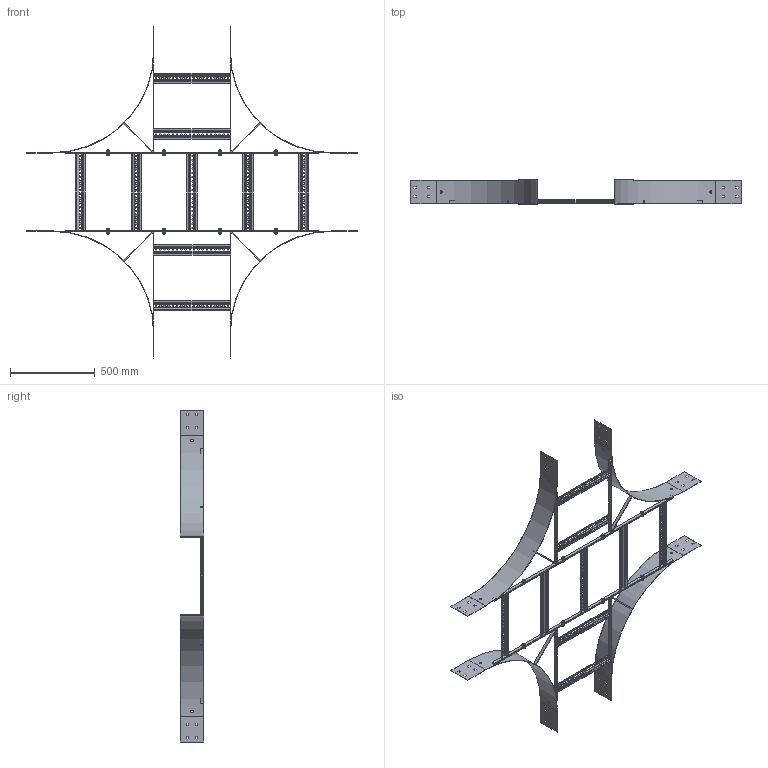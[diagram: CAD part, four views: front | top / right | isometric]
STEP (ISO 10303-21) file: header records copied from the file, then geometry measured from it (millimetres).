
FILE_DESCRIPTION (( 'STEP AP203' ), '1' );
FILE_NAME ('N20C C 4506.STEP', '2024-08-28T23:21:05', ( '' ), ( '' ), 'SwSTEP 2.0', 'SolidWorks 2023', '' );
FILE_SCHEMA (( 'CONFIG_CONTROL_DESIGN' ));
Length unit declared in the file: millimetre
Products named in the file (14): Washers_M10 washer; Ladder Tee 20x5 Flat Bar_1495; CNH M10 Collar Nut_CNH M10 collar nut HDG; Ladder Tee 20x5 Flat Bar_518; Fascia bolt - M10x25_Fascia bolt; N20CC4506 horizontal_N20C C; N20CC4506 vertical with sides_N20C C; Fascia Kit M10x25_4th position; Ladder Tee 20x5 Flat Bar_240; N20C RADIUS PLATE_N1-600 IR; N20C C 4506; Ladder Rung_Ladder Rung -  450mm
Assembly tree (30 placements, depth 3):
  N20C C 4506
    N20CC4506 vertical with sides_N20C C  x2
      Ladder Tee 20x5 Flat Bar_1495
      N20C RADIUS PLATE_N1-600 IR
      Ladder Rung_Ladder Rung -  450mm
      Ladder Tee 20x5 Flat Bar_518
      Ladder Tee 20x5 Flat Bar_240
    N20CC4506 horizontal_N20C C
      Ladder Rung_Ladder Rung -  450mm  x5
      Ladder Tee 20x5 Flat Bar_1495
      Ladder Tee 20x5 Flat Bar_1495
    Fascia Kit M10x25_4th position  x8
      Fascia bolt - M10x25_Fascia bolt
      Washers_M10 washer
      CNH M10 Collar Nut_CNH M10 collar nut HDG
Bounding box: 1950 x 140 x 1960 mm (x, y, z)
Volume: 2742290.3 mm3; surface area: 2453778 mm2
Topology: 49 solids, 49 shells, 2818 faces, 7464 edges, 4776 vertices
Faces by surface type: plane 2338, cylinder 176, cone 112, bspline 112, torus 64, sphere 16
Entity records: 16623 total; most frequent: CARTESIAN_POINT 4024, ORIENTED_EDGE 2250, DIRECTION 2077, EDGE_CURVE 1125, LINE 873, VECTOR 873, VERTEX_POINT 725, AXIS2_PLACEMENT_3D 602
